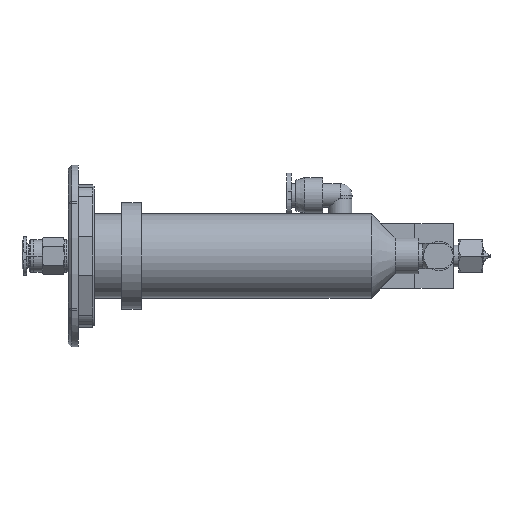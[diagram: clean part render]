
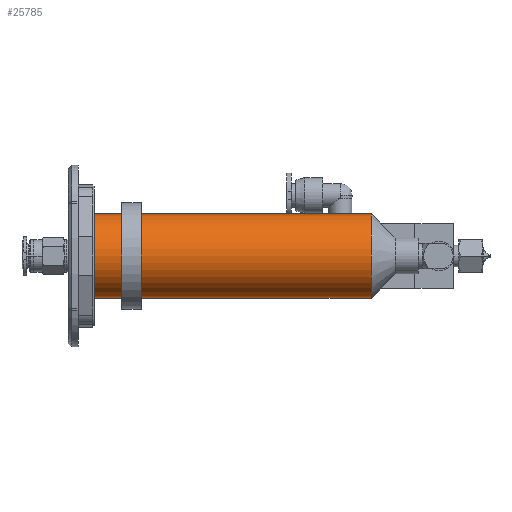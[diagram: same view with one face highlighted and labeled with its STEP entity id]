
A CAD part, left-side view. The second image highlights one B-rep face of the part: STEP entity #25785.
In plain terms, the highlighted cylindrical face has radius 13 mm (diameter 26 mm), a partial arc.
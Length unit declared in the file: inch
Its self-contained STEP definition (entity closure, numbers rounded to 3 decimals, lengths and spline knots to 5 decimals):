
#107 = DIRECTION ( 'NONE',  ( 0., -1., 0. ) ) ;
#944 = VECTOR ( 'NONE', #107, 39.37008 ) ;
#1610 = EDGE_CURVE ( 'NONE', #10895, #5885, #19678, .T. ) ;
#1696 = ORIENTED_EDGE ( 'NONE', *, *, #19291, .T. ) ;
#1920 = DIRECTION ( 'NONE',  ( 0., -1., 0. ) ) ;
#2610 = VECTOR ( 'NONE', #1920, 39.37008 ) ;
#3751 = DIRECTION ( 'NONE',  ( 0., -1., 0. ) ) ;
#4306 = CARTESIAN_POINT ( 'NONE',  ( -1.45669, 3.32677, -0.51181 ) ) ;
#5885 = VERTEX_POINT ( 'NONE', #4306 ) ;
#6156 = EDGE_CURVE ( 'NONE', #5885, #21768, #24479, .T. ) ;
#9346 = ORIENTED_EDGE ( 'NONE', *, *, #9425, .F. ) ;
#9425 = EDGE_CURVE ( 'NONE', #10895, #26963, #11225, .T. ) ;
#10895 = VERTEX_POINT ( 'NONE', #16124 ) ;
#11225 = LINE ( 'NONE', #36352, #2610 ) ;
#11296 = DIRECTION ( 'NONE',  ( 0., 1., 0. ) ) ;
#11462 = AXIS2_PLACEMENT_3D ( 'NONE', #14312, #11296, #34581 ) ;
#11717 = ORIENTED_EDGE ( 'NONE', *, *, #6156, .T. ) ;
#13540 = DIRECTION ( 'NONE',  ( 0., 0., -1. ) ) ;
#14312 = CARTESIAN_POINT ( 'NONE',  ( -1.45669, -0.03937, 0. ) ) ;
#15477 = FACE_OUTER_BOUND ( 'NONE', #24725, .T. ) ;
#16124 = CARTESIAN_POINT ( 'NONE',  ( -1.45669, 3.32677, 0.51181 ) ) ;
#19291 = EDGE_CURVE ( 'NONE', #21768, #26963, #32225, .T. ) ;
#19678 = CIRCLE ( 'NONE', #29033, 0.51181 ) ;
#21768 = VERTEX_POINT ( 'NONE', #34408 ) ;
#22270 = ORIENTED_EDGE ( 'NONE', *, *, #1610, .T. ) ;
#23220 = AXIS2_PLACEMENT_3D ( 'NONE', #27022, #3751, #29952 ) ;
#24479 = LINE ( 'NONE', #35042, #944 ) ;
#24725 = EDGE_LOOP ( 'NONE', ( #9346, #22270, #11717, #1696 ) ) ;
#24926 = CARTESIAN_POINT ( 'NONE',  ( -1.45669, 3.32677, 0. ) ) ;
#25785 = ADVANCED_FACE ( 'NONE', ( #15477 ), #30867, .T. ) ;
#26963 = VERTEX_POINT ( 'NONE', #35956 ) ;
#27022 = CARTESIAN_POINT ( 'NONE',  ( -1.45669, -0.61024, 0. ) ) ;
#29033 = AXIS2_PLACEMENT_3D ( 'NONE', #24926, #33532, #13540 ) ;
#29952 = DIRECTION ( 'NONE',  ( 0., 0., -1. ) ) ;
#30867 = CYLINDRICAL_SURFACE ( 'NONE', #23220, 0.51181 ) ;
#32225 = CIRCLE ( 'NONE', #11462, 0.51181 ) ;
#33532 = DIRECTION ( 'NONE',  ( 0., -1., 0. ) ) ;
#34408 = CARTESIAN_POINT ( 'NONE',  ( -1.45669, -0.03937, -0.51181 ) ) ;
#34581 = DIRECTION ( 'NONE',  ( 0., 0., -1. ) ) ;
#35042 = CARTESIAN_POINT ( 'NONE',  ( -1.45669, -0.61024, -0.51181 ) ) ;
#35956 = CARTESIAN_POINT ( 'NONE',  ( -1.45669, -0.03937, 0.51181 ) ) ;
#36352 = CARTESIAN_POINT ( 'NONE',  ( -1.45669, -0.61024, 0.51181 ) ) ;
